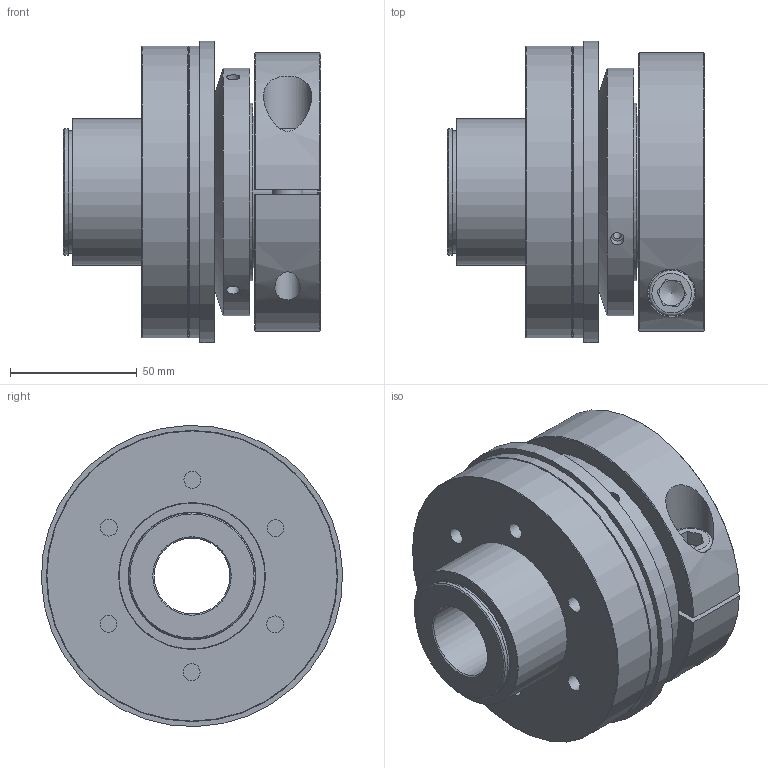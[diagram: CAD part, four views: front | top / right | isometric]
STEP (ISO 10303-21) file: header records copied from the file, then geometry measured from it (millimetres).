
FILE_DESCRIPTION( ( 'Unknown' ), '1' );
FILE_NAME( 'C:/Users/TWalzel/Documents/CAD-Daten/KBK-CK/300/KBK CK-300.stp', 'Unknown', ( 'Unknown' ), ( 'Unknown' ), 'PSStep 16.0.42', 'Unknown', ' ' );
FILE_SCHEMA( ( 'AUTOMOTIVE_DESIGN { 1 0 10303 214 1 1 1 1 }' ) );
Length unit declared in the file: millimetre
Products named in the file (10): Druckring 300; Stellring 300; Klemmnabe 300; Assem1; Flansch-Gleitlager  CK-300; Grundkörper CK-300_1; Socket Head Cap Screw_DIN_DIN 912 M12 x 40 --- 40N
Assembly tree (9 placements, depth 3):
  Assem1
    Flansch-Gleitlager  CK-300
    Grundkörper CK-300_1
    Socket Head Cap Screw_DIN_DIN 912 M12 x 40 --- 40N
    Klemmnabe 300
      Klemmnabe 300
    Stellring 300
      Stellring 300
    Druckring 300
      Druckring 300
Bounding box: 101.55 x 118.94 x 118.94 mm (x, y, z)
Volume: 637433.8 mm3; surface area: 146004.6 mm2
Topology: 6 solids, 6 shells, 108 faces, 224 edges, 143 vertices
Faces by surface type: plane 43, cylinder 41, cone 20, torus 4
Full cylindrical faces by diameter (mm): 3.242 x3, 5.2 x3, 6.647 x12, 10.106 x1, 12 x1, 12.5 x1, 18 x1, 19 x1, 30 x1, 48.5 x1, 50 x3, 58 x1, 60 x1, 70 x1, 76 x2, 88 x1, 98 x1, 98.5 x1, 115 x2, 119 x1
Entity records: 3972 total; most frequent: CARTESIAN_POINT 896, DIRECTION 472, ORIENTED_EDGE 286, AXIS2_PLACEMENT_3D 216, EDGE_LOOP 202, FACE_OUTER_BOUND 151, EDGE_CURVE 143, VERTEX_POINT 124
